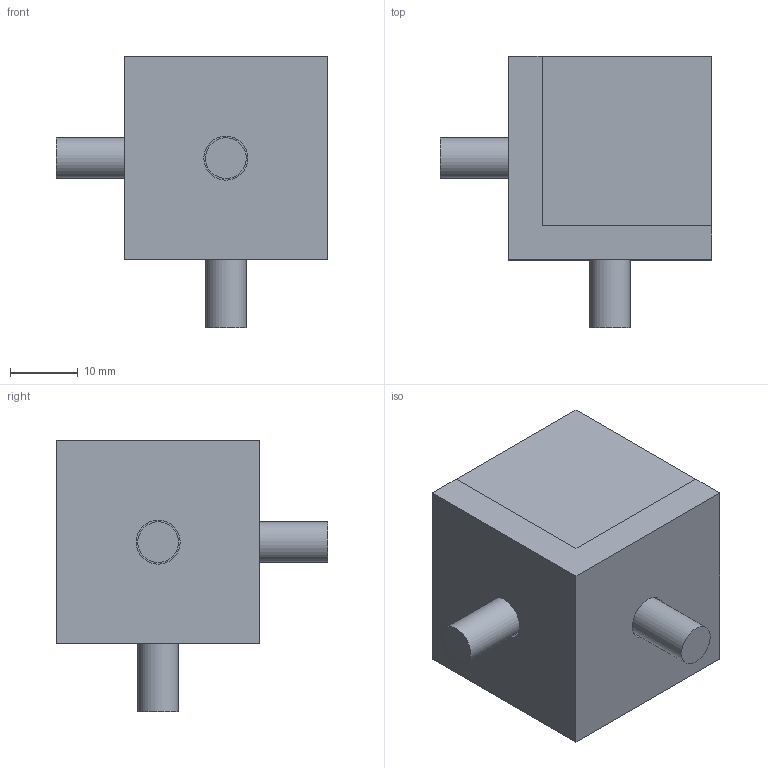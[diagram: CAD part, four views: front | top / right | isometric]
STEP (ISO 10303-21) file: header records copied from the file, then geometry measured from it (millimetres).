
FILE_DESCRIPTION((''),'2;1');
FILE_NAME('C:\Documents and Settings\古川典政\My Documents\Inventor\HP用\MasterData\BRACKET\M6\ABC-3030-6_typeA.stp','2008-07-31T09:11:40',(''),(''),'Autodesk Inventor 2008','Autodesk Inventor 2008','');
FILE_SCHEMA(('CONFIG_CONTROL_DESIGN'));
Length unit declared in the file: millimetre
Products named in the file (6): ABC-3030-6_typeA; ABC-3030-6_typeA1; ABC-3030-6_typeA2; ABC-3030-6_typeA3; ABC-3030-6_typeA4; ABC-3030-6_typeA5
Assembly tree (5 placements, depth 2):
  ABC-3030-6_typeA
    ABC-3030-6_typeA1
    ABC-3030-6_typeA2
    ABC-3030-6_typeA3
    ABC-3030-6_typeA4
    ABC-3030-6_typeA5
Bounding box: 40 x 40 x 40 mm (x, y, z)
Volume: 14366 mm3; surface area: 11184.4 mm2
Topology: 5 solids, 5 shells, 42 faces, 78 edges, 52 vertices
Faces by surface type: plane 27, bspline 9, cylinder 6
Full cylindrical faces by diameter (mm): 6 x3, 10 x3
Entity records: 1235 total; most frequent: CARTESIAN_POINT 282, DIRECTION 178, ORIENTED_EDGE 132, AXIS2_PLACEMENT_3D 68, EDGE_CURVE 66, EDGE_LOOP 66, VERTEX_POINT 52, FACE_OUTER_BOUND 42
